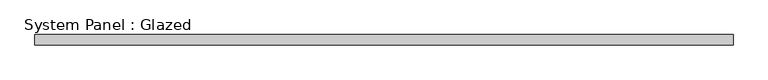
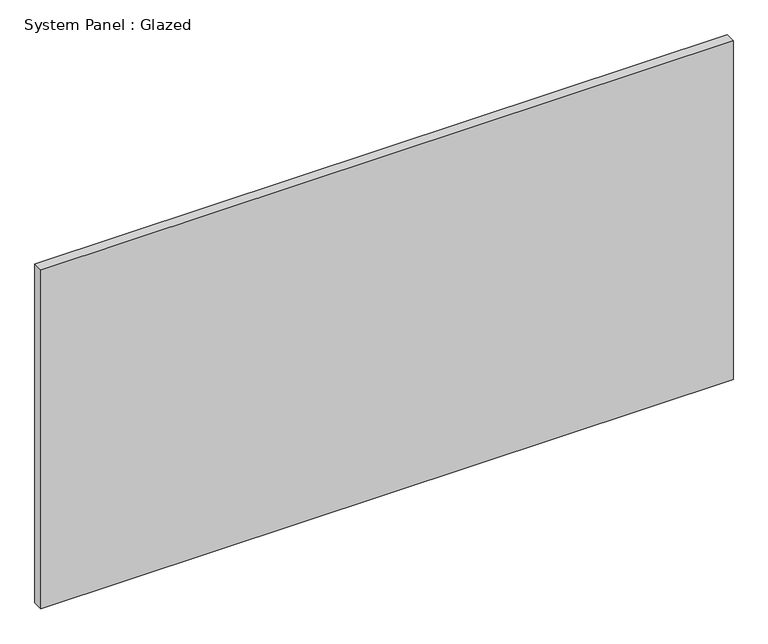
"""IFC4 building model written with IfcOpenShell, lengths in millimetres: plate geometry, System Panel : Glazed."""

from ifc_helpers import new_model, si_unit, origin, origin_with_axes, place, context, project, spatial, polyline, outline, extrude, source, transform, mapped, element, save


def system_panel_glazed_89300687(model_context):
    return source(origin(), model_context, "Body", "SweptSolid", [
        extrude(outline(polyline([(842.957653, 19.05), (-842.957653, 19.05), (-842.957653, 44.45), (842.957653, 44.45), (842.957653, 19.05)])), origin_with_axes(), (0.0, 0.0, 1.0), 873.1346896),
    ])


if __name__ == "__main__":
    model = new_model("IFC4")
    model_context = context("Model", 3, world=origin())
    ifc_project = project(units=[si_unit("LENGTHUNIT", "METRE", prefix="MILLI")], contexts=[model_context])
    site = spatial("IfcSite", under=ifc_project)
    building = spatial("IfcBuilding", under=site)
    placement = place(None, origin())
    system_panel_glazed_shape = system_panel_glazed_89300687(model_context)
    element("IfcPlate", 1, ObjectType="System Panel : Glazed", at=placement, inside=building, context=model_context, shape_type="MappedRepresentation", body=[
        mapped(system_panel_glazed_shape, transform((0.0, 0.0, 0.0), x_axis=(1.0, 0.0, 0.0), y_axis=(0.0, 1.0, 0.0), z_axis=(0.0, 0.0, 1.0))),
    ])
    save(model, "model.ifc")
